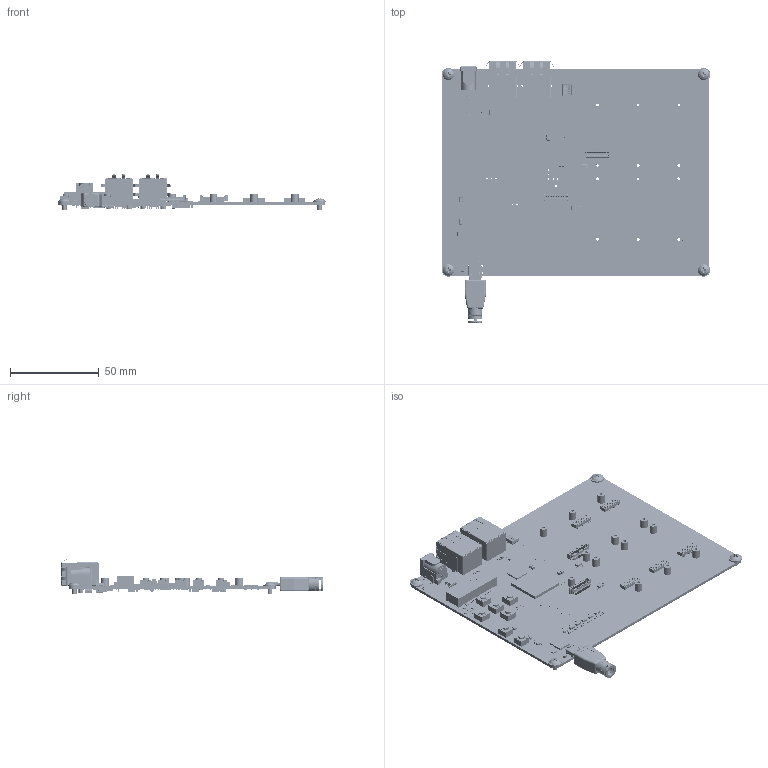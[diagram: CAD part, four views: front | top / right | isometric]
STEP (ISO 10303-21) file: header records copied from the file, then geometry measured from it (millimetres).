
FILE_DESCRIPTION(('Open CASCADE Model'),'2;1');
FILE_NAME('Open CASCADE Shape Model','2022-04-19T13:27:24',('Author'),( 'Open CASCADE'),'Open CASCADE STEP processor 6.8','Open CASCADE 6.8' ,'Unknown');
FILE_SCHEMA(('AUTOMOTIVE_DESIGN { 1 0 10303 214 1 1 1 1 }'));
Length unit declared in the file: millimetre
Products named in the file (442): PCB; Board=projectname; Open CASCADE STEP translator 6.8 2.1.1; C111=projectname; User_Library-SMD_0201_CAPACITOR; R73=projectname; User_Library-RESC1608X05N; D8=projectname; 6725848752; L2=projectname; User_Library-Chip_Inductor; C104=projectname; R67=projectname; 6725850752; R66=projectname; R72=projectname; R71=projectname; 6725854992; L1=projectname; C103=projectname; R70=projectname; R69=projectname; 6725964432; R68=projectname; C102=projectname; R42=projectname; 6725852032; R13=projectname; U12=projectname; 6725852352; D2=projectname; 6725854512; S8=projectname; CHS-04TA1; _CHS-04-J-body; _CHS-slider; J3=projectname; SS4-30-3.50-L-D_RGB16777215; _SS4-30_socket; _C-229-30-3.50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
Assembly tree (767 placements, depth 5):
  PCB
    Board=projectname
      Open CASCADE STEP translator 6.8 2.1.1
    C111=projectname
      User_Library-SMD_0201_CAPACITOR
    R73=projectname
      User_Library-RESC1608X05N
    D8=projectname
      6725848752
    L2=projectname
      User_Library-Chip_Inductor
    C104=projectname
      User_Library-SMD_0201_CAPACITOR
    R67=projectname
      6725850752
    R66=projectname
      6725850752
    R72=projectname
      6725850752
    R71=projectname
      6725854992
    L1=projectname
      User_Library-Chip_Inductor
    C103=projectname
      User_Library-SMD_0201_CAPACITOR
    R70=projectname
      6725850752
    R69=projectname
      6725964432
    R68=projectname
      6725964432
    C102=projectname
      User_Library-SMD_0201_CAPACITOR
    R42=projectname
      6725852032
    R13=projectname
      6725850752
    U12=projectname
      6725852352
    D2=projectname
      6725854512
    S8=projectname
      CHS-04TA1
        _CHS-04-J-body
        _CHS-slider  x4
    J3=projectname
      SS4-30-3.50-L-D_RGB16777215
        _SS4-30_socket
        _C-229-30-3.50
    H9=projectname
      9774050243R_(rev1)
    J2=projectname
      SS4-30-3.50-L-D_RGB16777215
        _SS4-30_socket
        _C-229-30-3.50
    H5=projectname
      9774050243R_(rev1)
    R4=projectname
      6725854992
    R12=projectname
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Bounding box: 150.9 x 146.8 x 19.8 mm (x, y, z)
Volume: 41964.2 mm3; surface area: 67154.8 mm2
Topology: 1462 solids, 1494 shells, 29970 faces, 76608 edges, 46563 vertices
Faces by surface type: plane 18315, cylinder 8094, sphere 3041, bspline 418, torus 58, cone 36, revolution 8
Full cylindrical faces by diameter (mm): 0.4 x3, 0.6 x7, 0.635 x10, 0.76 x10, 0.8 x14, 0.889 x25, 0.9 x31, 1 x6, 1.02 x8, 1.2 x1, 1.567 x13, 1.6 x4, 1.7 x1, 1.8 x1, 2.8 x13, 3 x13, 3.2 x4, 3.25 x4, 4.35 x13, 6 x4
Entity records: 392087 total; most frequent: CARTESIAN_POINT 67763, ORIENTED_EDGE 52096, DIRECTION 49407, EDGE_CURVE 26048, LINE 19271, VECTOR 19271, VERTEX_POINT 17693, AXIS2_PLACEMENT_3D 15067
